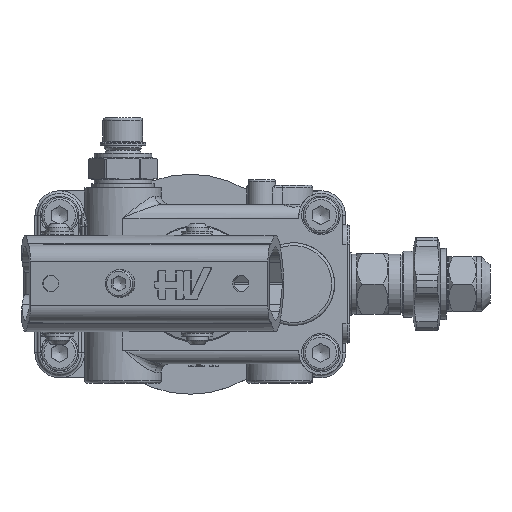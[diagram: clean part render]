
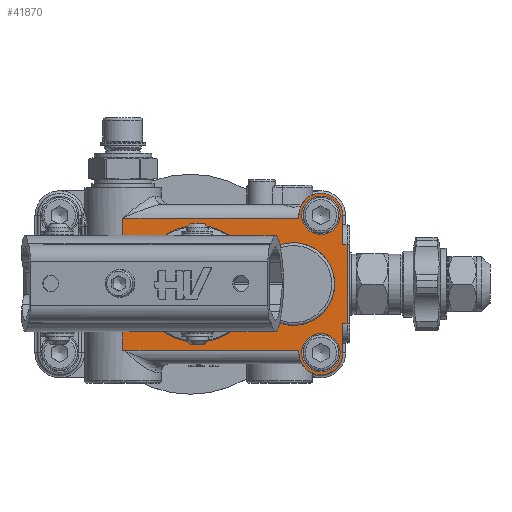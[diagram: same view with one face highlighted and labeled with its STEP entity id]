
A CAD part, top view. The second image highlights one B-rep face of the part: STEP entity #41870.
In plain terms, the highlighted planar face has unit normal (0, 0, 1).
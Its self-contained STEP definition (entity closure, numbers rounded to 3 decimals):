
#35990=CARTESIAN_POINT('',(111.0,9.,43.));
#35991=VERTEX_POINT('',#35990);
#35992=CARTESIAN_POINT('',(104.0,9.,43.));
#35993=DIRECTION('',(0.0,0.0,-1.0));
#35994=DIRECTION('',(1.0,0.0,0.0));
#35995=AXIS2_PLACEMENT_3D('',#35992,#35993,#35994);
#35996=CIRCLE('',#35995,7.);
#35997=EDGE_CURVE('',#35991,#35991,#35996,.T.);
#36030=CARTESIAN_POINT('',(111.,59.,43.));
#36031=VERTEX_POINT('',#36030);
#36032=CARTESIAN_POINT('',(104.,59.,43.));
#36033=DIRECTION('',(0.0,0.0,-1.0));
#36034=DIRECTION('',(1.0,0.0,0.0));
#36035=AXIS2_PLACEMENT_3D('',#36032,#36033,#36034);
#36036=CIRCLE('',#36035,7.);
#36037=EDGE_CURVE('',#36031,#36031,#36036,.T.);
#37492=CARTESIAN_POINT('',(112.,9.,43.));
#37493=VERTEX_POINT('',#37492);
#37500=CARTESIAN_POINT('',(96.0,9.,43.));
#37501=VERTEX_POINT('',#37500);
#37502=CARTESIAN_POINT('',(104.0,9.,43.));
#37503=DIRECTION('',(0.0,0.0,-1.0));
#37504=DIRECTION('',(-1.0,0.0,0.0));
#37505=AXIS2_PLACEMENT_3D('',#37502,#37503,#37504);
#37506=CIRCLE('',#37505,8.0);
#37507=EDGE_CURVE('',#37493,#37501,#37506,.T.);
#37645=CARTESIAN_POINT('',(83.0,23.802,43.));
#37646=VERTEX_POINT('',#37645);
#37654=CARTESIAN_POINT('',(83.0,44.198,43.));
#37655=VERTEX_POINT('',#37654);
#37656=CARTESIAN_POINT('',(94.,34.0,43.));
#37657=DIRECTION('',(0.0,0.0,-1.0));
#37658=DIRECTION('',(-1.0,0.0,0.0));
#37659=AXIS2_PLACEMENT_3D('',#37656,#37657,#37658);
#37660=CIRCLE('',#37659,15.0);
#37661=EDGE_CURVE('',#37655,#37646,#37660,.T.);
#37680=CARTESIAN_POINT('',(83.0,23.802,43.));
#37681=DIRECTION('',(0.0,1.0,0.0));
#37682=VECTOR('',#37681,20.396);
#37683=LINE('',#37680,#37682);
#37684=EDGE_CURVE('',#37646,#37655,#37683,.T.);
#38100=CARTESIAN_POINT('',(96.,59.,43.));
#38101=VERTEX_POINT('',#38100);
#38108=CARTESIAN_POINT('',(112.0,59.,43.));
#38109=VERTEX_POINT('',#38108);
#38110=CARTESIAN_POINT('',(104.,59.,43.));
#38111=DIRECTION('',(0.0,0.0,-1.0));
#38112=DIRECTION('',(1.0,0.0,0.0));
#38113=AXIS2_PLACEMENT_3D('',#38110,#38111,#38112);
#38114=CIRCLE('',#38113,8.0);
#38115=EDGE_CURVE('',#38101,#38109,#38114,.T.);
#38140=CARTESIAN_POINT('',(32.,58.,43.));
#38141=VERTEX_POINT('',#38140);
#38157=CARTESIAN_POINT('',(96.,58.,43.));
#38158=VERTEX_POINT('',#38157);
#38159=CARTESIAN_POINT('',(96.,58.,43.));
#38160=DIRECTION('',(-1.0,0.0,0.0));
#38161=VECTOR('',#38160,64.);
#38162=LINE('',#38159,#38161);
#38163=EDGE_CURVE('',#38158,#38141,#38162,.T.);
#38967=CARTESIAN_POINT('',(32.,44.122,43.));
#38968=VERTEX_POINT('',#38967);
#38979=CARTESIAN_POINT('',(32.0,44.122,43.0));
#38980=DIRECTION('',(0.0,1.0,0.0));
#38981=VECTOR('',#38980,13.878);
#38982=LINE('',#38979,#38981);
#38983=EDGE_CURVE('',#38968,#38141,#38982,.T.);
#39679=CARTESIAN_POINT('',(32.,10.0,43.));
#39680=VERTEX_POINT('',#39679);
#40149=CARTESIAN_POINT('',(32.,23.878,43.));
#40150=VERTEX_POINT('',#40149);
#40151=CARTESIAN_POINT('',(32.0,10.,43.0));
#40152=DIRECTION('',(0.0,1.0,0.0));
#40153=VECTOR('',#40152,13.878);
#40154=LINE('',#40151,#40153);
#40155=EDGE_CURVE('',#39680,#40150,#40154,.T.);
#40248=CARTESIAN_POINT('',(96.0,10.0,43.));
#40249=VERTEX_POINT('',#40248);
#40257=CARTESIAN_POINT('',(96.0,10.0,43.));
#40258=DIRECTION('',(-1.0,0.0,0.0));
#40259=VECTOR('',#40258,64.);
#40260=LINE('',#40257,#40259);
#40261=EDGE_CURVE('',#40249,#39680,#40260,.T.);
#41484=CARTESIAN_POINT('',(113.5,48.5,43.));
#41485=VERTEX_POINT('',#41484);
#41518=CARTESIAN_POINT('',(113.5,19.5,43.));
#41519=VERTEX_POINT('',#41518);
#41530=CARTESIAN_POINT('',(113.5,48.5,43.));
#41531=DIRECTION('',(0.0,-1.0,0.0));
#41532=VECTOR('',#41531,29.);
#41533=LINE('',#41530,#41532);
#41534=EDGE_CURVE('',#41485,#41519,#41533,.T.);
#41757=CARTESIAN_POINT('',(112.0,19.5,43.));
#41758=VERTEX_POINT('',#41757);
#41759=CARTESIAN_POINT('',(112.0,19.5,43.));
#41760=DIRECTION('',(1.0,0.0,0.0));
#41761=VECTOR('',#41760,1.5);
#41762=LINE('',#41759,#41761);
#41763=EDGE_CURVE('',#41758,#41519,#41762,.T.);
#41776=CARTESIAN_POINT('',(104.,34.,43.));
#41777=DIRECTION('',(0.0,0.0,1.0));
#41778=DIRECTION('',(1.0,0.0,0.0));
#41779=AXIS2_PLACEMENT_3D('',#41776,#41777,#41778);
#41780=PLANE('',#41779);
#41781=ORIENTED_EDGE('',*,*,#41534,.F.);
#41782=CARTESIAN_POINT('',(112.,48.5,43.));
#41783=VERTEX_POINT('',#41782);
#41784=CARTESIAN_POINT('',(112.,48.5,43.));
#41785=DIRECTION('',(1.0,0.0,0.0));
#41786=VECTOR('',#41785,1.5);
#41787=LINE('',#41784,#41786);
#41788=EDGE_CURVE('',#41783,#41485,#41787,.T.);
#41789=ORIENTED_EDGE('',*,*,#41788,.F.);
#41790=CARTESIAN_POINT('',(112.0,59.,43.));
#41791=DIRECTION('',(0.0,-1.0,0.0));
#41792=VECTOR('',#41791,10.5);
#41793=LINE('',#41790,#41792);
#41794=EDGE_CURVE('',#38109,#41783,#41793,.T.);
#41795=ORIENTED_EDGE('',*,*,#41794,.F.);
#41796=ORIENTED_EDGE('',*,*,#38115,.F.);
#41797=CARTESIAN_POINT('',(96.,58.,43.));
#41798=DIRECTION('',(0.0,1.0,0.0));
#41799=VECTOR('',#41798,1.);
#41800=LINE('',#41797,#41799);
#41801=EDGE_CURVE('',#38158,#38101,#41800,.T.);
#41802=ORIENTED_EDGE('',*,*,#41801,.F.);
#41803=ORIENTED_EDGE('',*,*,#38163,.T.);
#41804=ORIENTED_EDGE('',*,*,#38983,.F.);
#41805=CARTESIAN_POINT('',(33.732,41.0,43.));
#41806=VERTEX_POINT('',#41805);
#41807=CARTESIAN_POINT('',(33.732,41.0,43.));
#41808=CARTESIAN_POINT('',(33.732,41.528,43.));
#41809=CARTESIAN_POINT('',(33.438,42.767,43.));
#41810=CARTESIAN_POINT('',(32.582,43.719,43.));
#41811=CARTESIAN_POINT('',(32.,44.122,43.));
#41812=B_SPLINE_CURVE_WITH_KNOTS('',3,(#41807,#41808,#41809,#41810,#41811),.UNSPECIFIED.,.F.,.U.,(4,1,4),(2.696,2.855,3.066),.UNSPECIFIED.);
#41813=EDGE_CURVE('',#41806,#38968,#41812,.T.);
#41814=ORIENTED_EDGE('',*,*,#41813,.F.);
#41815=CARTESIAN_POINT('',(33.732,27.,43.));
#41816=VERTEX_POINT('',#41815);
#41817=CARTESIAN_POINT('',(33.732,27.,43.));
#41818=DIRECTION('',(0.0,1.0,0.0));
#41819=VECTOR('',#41818,14.);
#41820=LINE('',#41817,#41819);
#41821=EDGE_CURVE('',#41816,#41806,#41820,.T.);
#41822=ORIENTED_EDGE('',*,*,#41821,.F.);
#41823=CARTESIAN_POINT('',(32.,23.878,43.));
#41824=CARTESIAN_POINT('',(32.433,24.178,43.));
#41825=CARTESIAN_POINT('',(33.336,25.067,43.));
#41826=CARTESIAN_POINT('',(33.732,26.29,43.0));
#41827=CARTESIAN_POINT('',(33.732,27.,43.));
#41828=B_SPLINE_CURVE_WITH_KNOTS('',3,(#41823,#41824,#41825,#41826,#41827),.UNSPECIFIED.,.F.,.U.,(4,1,4),(2.696,2.854,3.065),.UNSPECIFIED.);
#41829=EDGE_CURVE('',#40150,#41816,#41828,.T.);
#41830=ORIENTED_EDGE('',*,*,#41829,.F.);
#41831=ORIENTED_EDGE('',*,*,#40155,.F.);
#41832=ORIENTED_EDGE('',*,*,#40261,.F.);
#41833=CARTESIAN_POINT('',(96.,9.,43.));
#41834=DIRECTION('',(0.0,1.0,0.0));
#41835=VECTOR('',#41834,1.);
#41836=LINE('',#41833,#41835);
#41837=EDGE_CURVE('',#37501,#40249,#41836,.T.);
#41838=ORIENTED_EDGE('',*,*,#41837,.F.);
#41839=ORIENTED_EDGE('',*,*,#37507,.F.);
#41840=CARTESIAN_POINT('',(112.,19.5,43.));
#41841=DIRECTION('',(0.0,-1.0,0.0));
#41842=VECTOR('',#41841,10.5);
#41843=LINE('',#41840,#41842);
#41844=EDGE_CURVE('',#41758,#37493,#41843,.T.);
#41845=ORIENTED_EDGE('',*,*,#41844,.F.);
#41846=ORIENTED_EDGE('',*,*,#41763,.T.);
#41847=EDGE_LOOP('',(#41781,#41789,#41795,#41796,#41802,#41803,#41804,#41814,#41822,#41830,#41831,#41832,#41838,#41839,#41845,#41846));
#41848=FACE_OUTER_BOUND('',#41847,.T.);
#41849=ORIENTED_EDGE('',*,*,#35997,.T.);
#41850=EDGE_LOOP('',(#41849));
#41851=FACE_BOUND('',#41850,.T.);
#41852=ORIENTED_EDGE('',*,*,#36037,.T.);
#41853=EDGE_LOOP('',(#41852));
#41854=FACE_BOUND('',#41853,.T.);
#41855=ORIENTED_EDGE('',*,*,#37661,.T.);
#41856=ORIENTED_EDGE('',*,*,#37684,.T.);
#41857=EDGE_LOOP('',(#41855,#41856));
#41858=FACE_BOUND('',#41857,.T.);
#41859=CARTESIAN_POINT('',(46.28,21.264,43.));
#41860=VERTEX_POINT('',#41859);
#41861=CARTESIAN_POINT('',(59.,34.0,43.));
#41862=DIRECTION('',(0.0,0.0,1.0));
#41863=DIRECTION('',(0.707,0.708,0.0));
#41864=AXIS2_PLACEMENT_3D('',#41861,#41862,#41863);
#41865=CIRCLE('',#41864,18.);
#41866=EDGE_CURVE('',#41860,#41860,#41865,.T.);
#41867=ORIENTED_EDGE('',*,*,#41866,.F.);
#41868=EDGE_LOOP('',(#41867));
#41869=FACE_BOUND('',#41868,.T.);
#41870=ADVANCED_FACE('',(#41848,#41851,#41854,#41858,#41869),#41780,.T.);
